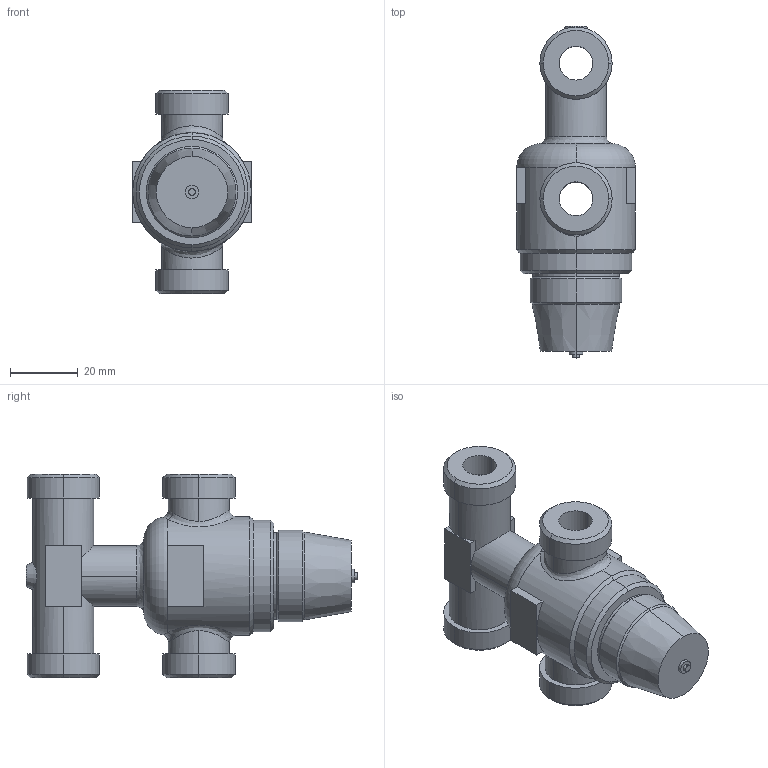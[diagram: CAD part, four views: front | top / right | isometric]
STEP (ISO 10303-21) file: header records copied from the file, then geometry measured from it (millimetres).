
FILE_DESCRIPTION((''),'2;1');
FILE_NAME('000390.dwg.stp','2006-10-04T11:28:57',(''),(''),'Mechanical Desktop 2006','Mechanical Desktop 2006',', , ');
FILE_SCHEMA(('AUTOMOTIVE_DESIGN { 1 2 10303 214 0 1 1 1 }'));
Length unit declared in the file: millimetre
Products named in the file (1): Product
Bounding box: 35.36 x 97.9 x 60 mm (x, y, z)
Volume: 63835.8 mm3; surface area: 23220.9 mm2
Topology: 10 solids, 10 shells, 116 faces, 263 edges, 166 vertices
Faces by surface type: cylinder 41, plane 39, cone 20, bspline 14, torus 2
Entity records: 4307 total; most frequent: CARTESIAN_POINT 1610, DIRECTION 570, ORIENTED_EDGE 526, EDGE_CURVE 263, AXIS2_PLACEMENT_3D 230, VERTEX_POINT 166, EDGE_LOOP 129, CIRCLE 117
